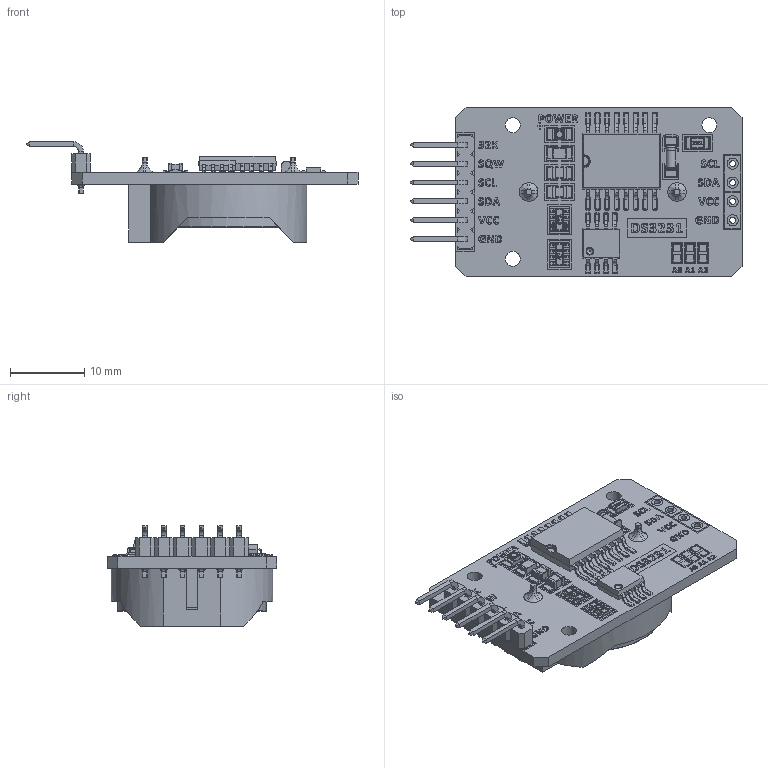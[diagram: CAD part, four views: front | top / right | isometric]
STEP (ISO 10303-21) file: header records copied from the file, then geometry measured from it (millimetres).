
FILE_DESCRIPTION(('HOOPS Exchange Step'),'2;1');
FILE_NAME('/mnt/converter2/gc-converter2/66e0481b2dd3ed4401c27b460bc786f620200818-4028-1wkxpb1.SLDPRT.step','2020-08-18T14:19:49+00:00',('converter2'),('Unknown organisation'),'HOOPS Exchange 2019.2','HOOPS Exchange','Unknown authorisation');
FILE_SCHEMA( ('AUTOMOTIVE_DESIGN { 1 0 10303 214 1 1 1 1 }') );
Length unit declared in the file: millimetre
Products named in the file (2): Default; 66e0481b2dd3ed4401c27b460bc786f620200818-4028-1wkxpb1
Assembly tree (1 placements, depth 2):
  66e0481b2dd3ed4401c27b460bc786f620200818-4028-1wkxpb1
    Default
Bounding box: 44.75 x 22.8 x 13.53 mm (x, y, z)
Volume: 3300.2 mm3; surface area: 5321 mm2
Topology: 4 solids, 4 shells, 3190 faces, 8416 edges, 5407 vertices
Faces by surface type: plane 1450, extrusion 992, cylinder 548, torus 112, bspline 64, sphere 20, cone 4
Full cylindrical faces by diameter (mm): 0.1 x6, 0.8 x4, 1.2 x1, 1.202 x1, 1.5 x20, 2 x3, 2.5 x4, 18.687 x1, 20 x1
Entity records: 142898 total; most frequent: CARTESIAN_POINT 65814, ORIENTED_EDGE 16792, DIRECTION 12777, EDGE_CURVE 8396, VECTOR 6051, VERTEX_POINT 5407, LINE 5059, EDGE_LOOP 3473
